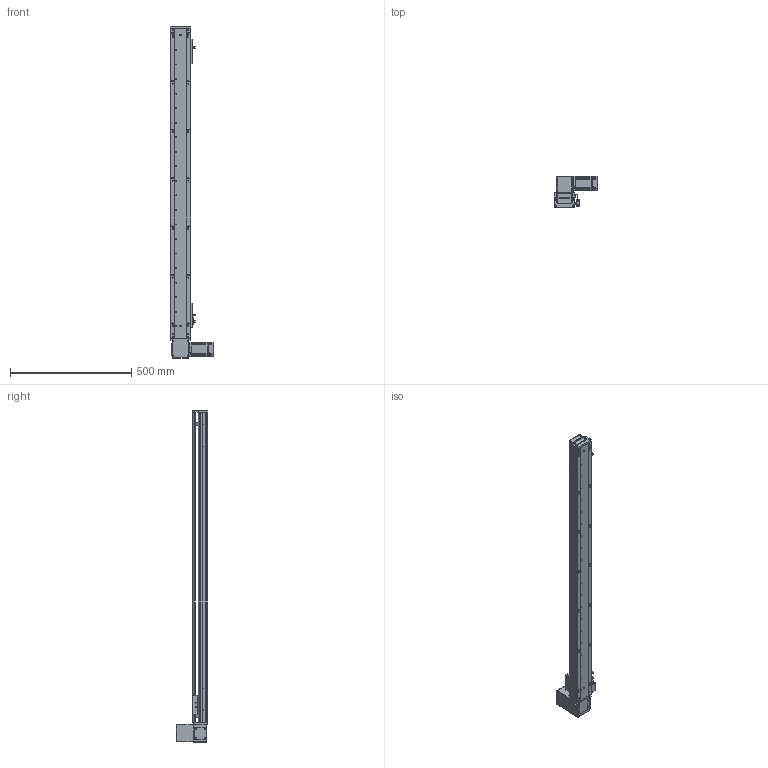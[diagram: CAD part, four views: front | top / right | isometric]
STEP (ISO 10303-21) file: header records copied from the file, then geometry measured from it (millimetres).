
FILE_DESCRIPTION (( 'STEP AP203' ), '1' );
FILE_NAME ('RY80-T-300-UR.SLDASM_1100.step', '2021-03-01T02:26:51', ( '盈信电脑' ), ( '东莞市道滘镇水果街19号' ), 'SwSTEP 2.0', 'SolidWorks 2012', '' );
FILE_SCHEMA (( 'CONFIG_CONTROL_DESIGN' ));
Products named in the file (20): RY80-T-300-UR.SLDASM_1100; RY80-T-M4蹟翐2; RY80-T萇儂假蚾啣; RY80-T翋肮祭謫裔啣; RY80-T肮祭謫奻殏俋欶; 1; RY80-T-上下折同步轮盖板; RY80-T肮祭湍揤輸2; RY100-T粣創揤踡裔; 滅袉蝶18-10; RY80-T粣創揤踡輸; RY80-T-翋肮祭謫釱; RY80俋离覜茼え; RY80-T肮祭湍揤輸1; 覜茼ん672; RY80-T-300-UR倰第奻裔啣_1100; 672嫖萇羲壽假蚾釱; RY80-T綴裔啣; RY80-T肮祭謫臏賑輸; RY80-T-300-UR倰第菁釱_1100
Assembly tree (23 placements, depth 2):
  RY80-T-300-UR.SLDASM_1100
    RY80-T-300-UR倰第菁釱_1100
    RY80-T肮祭謫臏賑輸
    RY80-T-300-UR倰第奻裔啣_1100
    RY80-T綴裔啣
    672嫖萇羲壽假蚾釱  x2
    覜茼ん672  x3
    RY80俋离覜茼え
    RY80-T-翋肮祭謫釱
    RY80-T肮祭湍揤輸1
    RY80-T肮祭湍揤輸2
    RY80-T粣創揤踡輸
    滅袉蝶18-10  x2
    RY100-T粣創揤踡裔
    RY80-T翋肮祭謫裔啣
    RY80-T-上下折同步轮盖板
    1
    RY80-T肮祭謫奻殏俋欶
    RY80-T-M4蹟翐2
    RY80-T萇儂假蚾啣
Bounding box: 180 x 130.5 x 1370 mm (x, y, z)
Volume: 2321959 mm3; surface area: 972718.6 mm2
Topology: 23 solids, 23 shells, 2491 faces, 6863 edges, 4460 vertices
Faces by surface type: plane 1339, cylinder 956, cone 140, bspline 56
Entity records: 79424 total; most frequent: CARTESIAN_POINT 19032, ORIENTED_EDGE 12370, DIRECTION 11686, EDGE_CURVE 6185, VERTEX_POINT 4064, AXIS2_PLACEMENT_3D 3938, VECTOR 3810, LINE 3810
